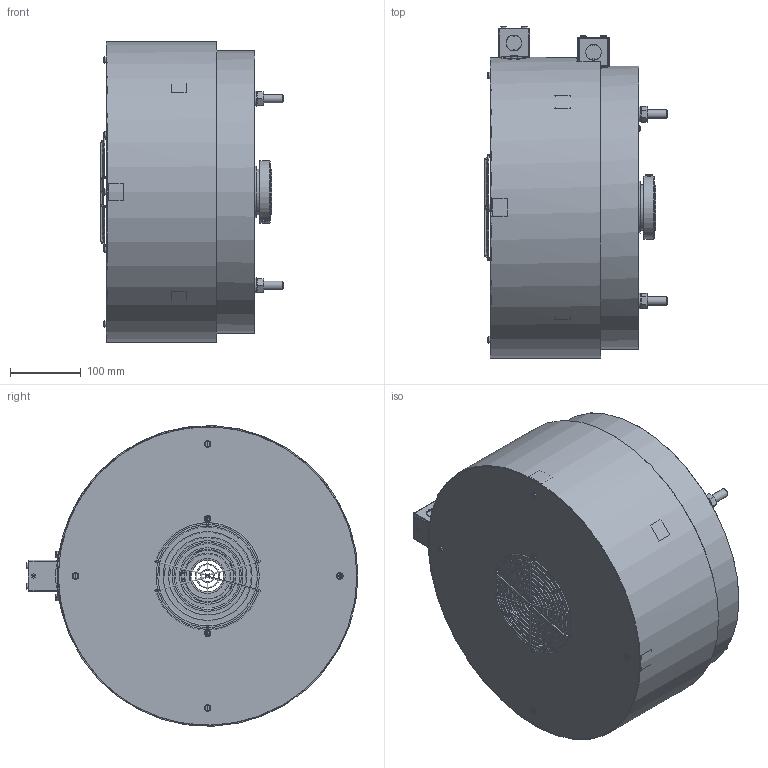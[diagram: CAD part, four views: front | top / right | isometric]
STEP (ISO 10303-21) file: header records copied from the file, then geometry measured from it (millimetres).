
FILE_DESCRIPTION((''),'2;1');
FILE_NAME('J:\WIP\Magpowr WEB\3D (Models)\Magnetic Particle Clutches and Brakes\Global Brakes\GBFM24A230.stp','2010-12-02T14:23:15',('lzuniga'),(''),'Autodesk Inventor 2010','Autodesk Inventor 2010','');
FILE_SCHEMA(('AUTOMOTIVE_DESIGN { 1 0 10303 214 1 1 1 1 }'));
Length unit declared in the file: inch
Products named in the file (21): GBFM24A230 Assy; GBF24A230 Assy; GBF24 Assy; Right Stator, Left Stator, & Rotor; Junction Box & Junction Box Cover Assy; Junction Box MAGPOWR 600B347; Junction Box Cover; 8-32 x 1_4 LG; M12 X 1.75 X 160mm; M12 - Lock Washer; M12 X 1.75; Collar 714A1-12; M10 X 1.5 X 20 mm FIFE 90252-004; #12 X 0.5 LG MAGPOWR 29A90-1; External Snap Ring MAGPOWR 29A7-255; Air Hood GBF Sub-Assy MAGPOWR 600C458; Air Hood GBF MAGPOWR 600C458-1; Air Hood GBF - Mark ''C''; Fan Guard MAGPOWR 144B69-1; 10-32 X 0.50 LG; 6-32 X 0.75 LG
Assembly tree (39 placements, depth 5):
  GBFM24A230 Assy
    GBF24A230 Assy
      GBF24 Assy
        Right Stator, Left Stator, & Rotor
        Junction Box & Junction Box Cover Assy
          Junction Box MAGPOWR 600B347
          Junction Box Cover
          8-32 x 1_4 LG  x2
        M12 X 1.75 X 160mm  x4
        M12 - Lock Washer  x4
        M12 X 1.75  x4
        Collar 714A1-12
        M10 X 1.5 X 20 mm FIFE 90252-004  x2
        #12 X 0.5 LG MAGPOWR 29A90-1  x2
        External Snap Ring MAGPOWR 29A7-255  x2
      Air Hood GBF Sub-Assy MAGPOWR 600C458
        Air Hood GBF MAGPOWR 600C458-1
        Fan Guard MAGPOWR 144B69-1
        Junction Box & Junction Box Cover Assy
          Junction Box MAGPOWR 600B347
          Junction Box Cover
          8-32 x 1_4 LG  x2
        10-32 X 0.50 LG  x2
        6-32 X 0.75 LG  x2
      10-32 X 0.50 LG  x4
  Air Hood GBF - Mark ''C''
Bounding box: 258.46 x 469.67 x 425.22 mm (x, y, z)
Volume: 15292243.3 mm3; surface area: 1272083.8 mm2
Topology: 55 solids, 62 shells, 920 faces, 2172 edges, 1398 vertices
Faces by surface type: plane 557, cylinder 165, bspline 133, torus 34, cone 28, sphere 3
Full cylindrical faces by diameter (mm): 2.21 x12, 2.705 x2, 3.175 x2, 3.505 x2, 3.962 x4, 4.166 x4, 4.826 x6, 4.851 x2, 5.385 x2, 6.35 x5, 6.858 x2, 7.493 x4, 7.925 x1, 8.179 x4, 9.474 x6, 9.98 x2, 10.363 x2, 11.91 x1, 11.98 x4, 12 x4, 14.29 x4, 22.225 x4, 61.44 x2, 64.991 x2, 65 x1, 74.422 x2, 88.9 x1, 91.44 x2, 100 x2, 146 x1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
Entity records: 14580 total; most frequent: CARTESIAN_POINT 4132, DIRECTION 2008, ORIENTED_EDGE 1762, EDGE_CURVE 881, AXIS2_PLACEMENT_3D 749, EDGE_LOOP 693, VERTEX_POINT 638, VECTOR 510
